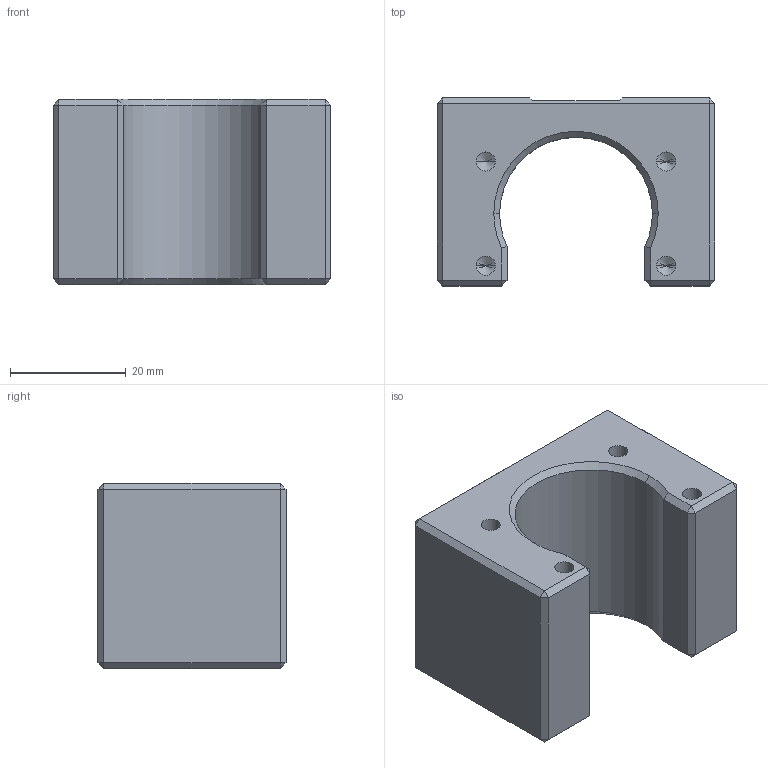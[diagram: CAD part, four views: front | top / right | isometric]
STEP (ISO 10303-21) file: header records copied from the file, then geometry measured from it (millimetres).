
FILE_DESCRIPTION (( 'STEP AP203' ), '1' );
FILE_NAME ('MC 1004.STEP', '2008-06-09T03:06:50', ( '' ), ( '' ), 'SwSTEP 2.0', 'SolidWorks 2008', '' );
FILE_SCHEMA (( 'CONFIG_CONTROL_DESIGN' ));
Length unit declared in the file: millimetre
Products named in the file (1): MC 1004
Bounding box: 48 x 32.5 x 32 mm (x, y, z)
Volume: 29626.6 mm3; surface area: 9337.6 mm2
Topology: 1 solids, 1 shells, 86 faces, 192 edges, 100 vertices
Faces by surface type: plane 45, cone 22, cylinder 19
Entity records: 2269 total; most frequent: DIRECTION 390, CARTESIAN_POINT 375, ORIENTED_EDGE 352, EDGE_CURVE 176, AXIS2_PLACEMENT_3D 131, VECTOR 128, LINE 128, VERTEX_POINT 100
